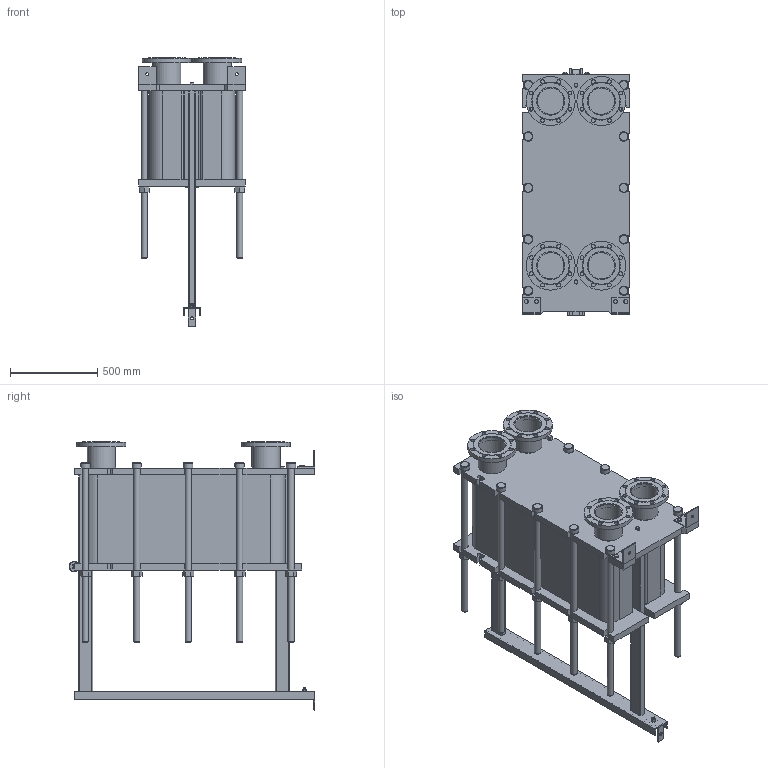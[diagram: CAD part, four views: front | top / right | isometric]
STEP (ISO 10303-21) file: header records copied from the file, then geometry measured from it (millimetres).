
FILE_DESCRIPTION(/* description */ (''),/* implementation_level */ '2;1');
FILE_NAME(/* name */ 'C:\Users\zhuro\Desktop\ENCO\TO\ЭН-041\ЭН-0,5-041-146-1.stp',/* time_stamp */ '2022-06-06T11:01:10+03:00',/* author */ ('zhuro'),/* organization */ (''),/* preprocessor_version */ 'ST-DEVELOPER v18.1',/* originating_system */ 'Autodesk Inventor 2022',/* authorisation */ '');
FILE_SCHEMA (('AUTOMOTIVE_DESIGN { 1 0 10303 214 3 1 1 }'));
Length unit declared in the file: millimetre
Products named in the file (1): ЭН-0,5-041-146-1
Bounding box: 610 x 1406.5 x 1535 mm (x, y, z)
Volume: 367005346.9 mm3; surface area: 10038773.4 mm2
Topology: 52 solids, 52 shells, 711 faces, 1696 edges, 1094 vertices
Faces by surface type: plane 487, cylinder 177, cone 41, torus 6
Full cylindrical faces by diameter (mm): 8 x4, 10 x2, 16 x8, 18 x3, 22 x32, 36 x24, 50 x1, 54 x10, 60 x12, 151 x4, 161 x8, 280 x4
Entity records: 22667 total; most frequent: CARTESIAN_POINT 5230, DIRECTION 3644, ORIENTED_EDGE 3392, EDGE_CURVE 1696, AXIS2_PLACEMENT_3D 1272, LINE 1100, VECTOR 1100, VERTEX_POINT 1094
